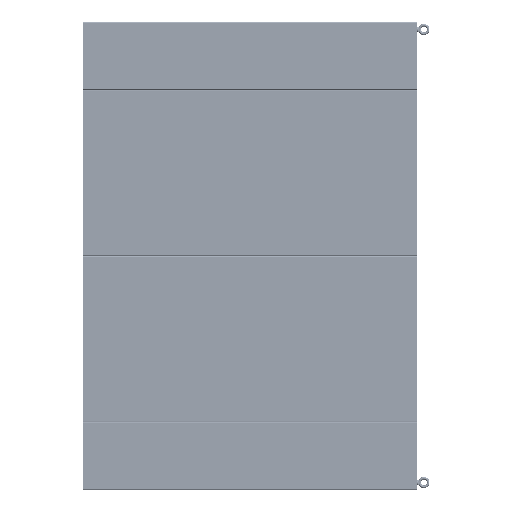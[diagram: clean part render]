
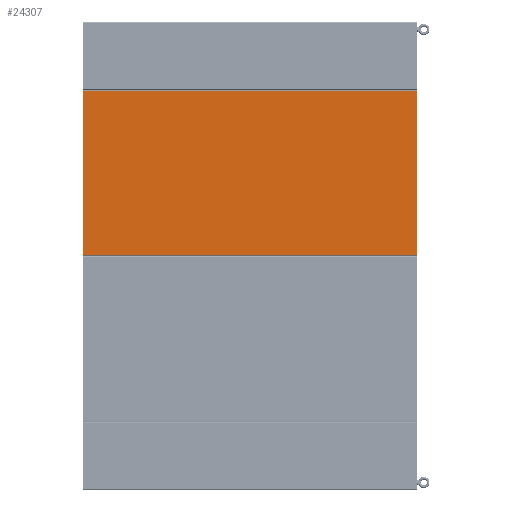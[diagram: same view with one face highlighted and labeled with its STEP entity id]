
A CAD part, left-side view. The second image highlights one B-rep face of the part: STEP entity #24307.
In plain terms, the highlighted planar face has unit normal (-1, 0, 0) as drawn and (0, 0, -1) by its records, which use the part's own axes.
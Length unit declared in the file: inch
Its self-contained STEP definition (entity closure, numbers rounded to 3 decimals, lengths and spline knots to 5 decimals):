
#23843=DIRECTION('',(0.,-1.,0.));
#23844=VECTOR('',#23843,83.75);
#23845=CARTESIAN_POINT('',(-20.625,0.,-0.125));
#23846=LINE('',#23845,#23844);
#23858=DIRECTION('',(1.,0.,0.));
#23859=VECTOR('',#23858,41.25);
#23860=CARTESIAN_POINT('',(-20.625,-83.75,-0.125));
#23861=LINE('',#23860,#23859);
#23865=DIRECTION('',(-1.,0.,0.));
#23866=VECTOR('',#23865,41.25);
#23867=CARTESIAN_POINT('',(20.625,0.,-0.125));
#23868=LINE('',#23867,#23866);
#23901=DIRECTION('',(0.,1.,0.));
#23902=VECTOR('',#23901,83.75);
#23903=CARTESIAN_POINT('',(20.625,-83.75,-0.125));
#23904=LINE('',#23903,#23902);
#24108=CARTESIAN_POINT('',(20.625,0.,-0.125));
#24109=VERTEX_POINT('',#24108);
#24110=CARTESIAN_POINT('',(20.625,-83.75,-0.125));
#24111=VERTEX_POINT('',#24110);
#24124=CARTESIAN_POINT('',(-20.625,-83.75,-0.125));
#24125=VERTEX_POINT('',#24124);
#24126=CARTESIAN_POINT('',(-20.625,0.,-0.125));
#24127=VERTEX_POINT('',#24126);
#24293=CARTESIAN_POINT('',(0.,0.,-0.125));
#24294=DIRECTION('',(0.,0.,1.));
#24295=DIRECTION('',(1.,0.,0.));
#24296=AXIS2_PLACEMENT_3D('',#24293,#24294,#24295);
#24297=PLANE('',#24296);
#24298=ORIENTED_EDGE('',*,*,#24286,.T.);
#24300=ORIENTED_EDGE('',*,*,#24299,.T.);
#24302=ORIENTED_EDGE('',*,*,#24301,.T.);
#24304=ORIENTED_EDGE('',*,*,#24303,.T.);
#24305=EDGE_LOOP('',(#24298,#24300,#24302,#24304));
#24306=FACE_OUTER_BOUND('',#24305,.F.);
#24286=EDGE_CURVE('',#24127,#24125,#23846,.T.);
#24299=EDGE_CURVE('',#24125,#24111,#23861,.T.);
#24301=EDGE_CURVE('',#24111,#24109,#23904,.T.);
#24303=EDGE_CURVE('',#24109,#24127,#23868,.T.);
#24307=ADVANCED_FACE('',(#24306),#24297,.F.);
